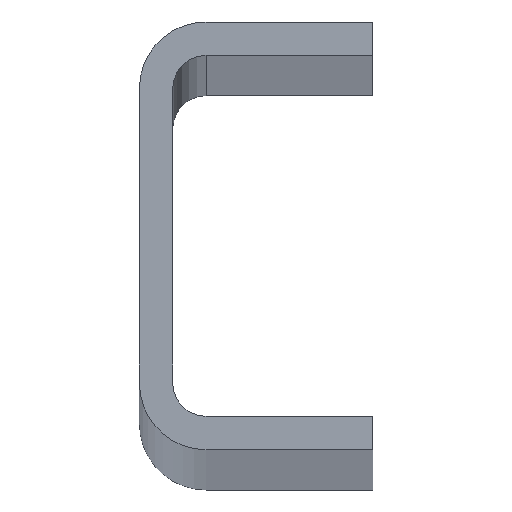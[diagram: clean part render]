
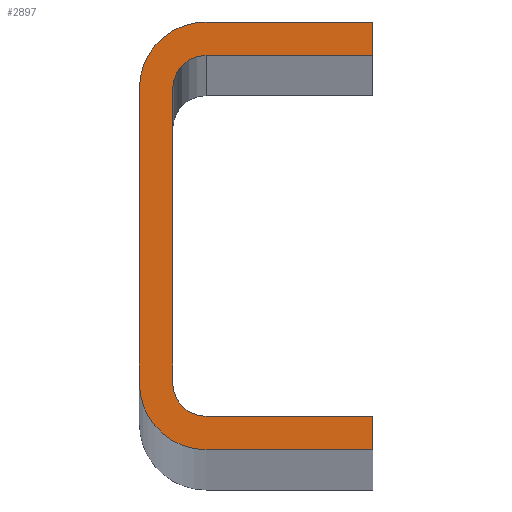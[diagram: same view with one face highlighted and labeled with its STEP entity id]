
A CAD part, top view. The second image highlights one B-rep face of the part: STEP entity #2897.
In plain terms, the highlighted planar face has unit normal (0, 0, 1).
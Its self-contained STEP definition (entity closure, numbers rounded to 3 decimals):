
#28 = VECTOR ( 'NONE', #2213, 1000. ) ;
#152 = VERTEX_POINT ( 'NONE', #876 ) ;
#164 = CARTESIAN_POINT ( 'NONE',  ( 6., 13.25, 0. ) ) ;
#173 = VECTOR ( 'NONE', #671, 1000. ) ;
#176 = CARTESIAN_POINT ( 'NONE',  ( 6., 16.25, 0. ) ) ;
#201 = EDGE_CURVE ( 'NONE', #3783, #1201, #4555, .T. ) ;
#260 = EDGE_CURVE ( 'NONE', #2105, #2435, #928, .T. ) ;
#384 = DIRECTION ( 'NONE',  ( 0., -1., 0. ) ) ;
#392 = ORIENTED_EDGE ( 'NONE', *, *, #3511, .T. ) ;
#475 = DIRECTION ( 'NONE',  ( 0., 0., 1. ) ) ;
#508 = CIRCLE ( 'NONE', #1164, 3. ) ;
#555 = VECTOR ( 'NONE', #2496, 1000. ) ;
#607 = EDGE_CURVE ( 'NONE', #4173, #2105, #938, .T. ) ;
#635 = LINE ( 'NONE', #3750, #2877 ) ;
#671 = DIRECTION ( 'NONE',  ( 0., 1., 0. ) ) ;
#745 = ORIENTED_EDGE ( 'NONE', *, *, #2243, .T. ) ;
#769 = VECTOR ( 'NONE', #1264, 1000. ) ;
#796 = EDGE_LOOP ( 'NONE', ( #4052, #745, #1595, #1997, #2623, #4964, #2340, #5023, #2715, #2128, #4064, #392 ) ) ;
#876 = CARTESIAN_POINT ( 'NONE',  ( 6., -19.25, 0. ) ) ;
#902 = DIRECTION ( 'NONE',  ( 1., 0., 0. ) ) ;
#910 = CARTESIAN_POINT ( 'NONE',  ( 6., 19.25, 0. ) ) ;
#928 = LINE ( 'NONE', #1695, #555 ) ;
#938 = LINE ( 'NONE', #176, #3988 ) ;
#950 = CARTESIAN_POINT ( 'NONE',  ( 21., 16.25, 0. ) ) ;
#1021 = VERTEX_POINT ( 'NONE', #1578 ) ;
#1047 = CARTESIAN_POINT ( 'NONE',  ( 21., -16.25, 0. ) ) ;
#1059 = CARTESIAN_POINT ( 'NONE',  ( 21., -19.25, 0. ) ) ;
#1110 = DIRECTION ( 'NONE',  ( -1., 0., 0. ) ) ;
#1111 = CARTESIAN_POINT ( 'NONE',  ( 21., -16.25, 0. ) ) ;
#1164 = AXIS2_PLACEMENT_3D ( 'NONE', #164, #4403, #4501 ) ;
#1201 = VERTEX_POINT ( 'NONE', #3225 ) ;
#1251 = CIRCLE ( 'NONE', #1922, 3. ) ;
#1264 = DIRECTION ( 'NONE',  ( -1., 0., 0. ) ) ;
#1304 = VERTEX_POINT ( 'NONE', #1047 ) ;
#1464 = DIRECTION ( 'NONE',  ( -1., 0., 0. ) ) ;
#1524 = VERTEX_POINT ( 'NONE', #4854 ) ;
#1578 = CARTESIAN_POINT ( 'NONE',  ( 0., -13.25, 0. ) ) ;
#1595 = ORIENTED_EDGE ( 'NONE', *, *, #3416, .T. ) ;
#1695 = CARTESIAN_POINT ( 'NONE',  ( 21., 16.25, 0. ) ) ;
#1922 = AXIS2_PLACEMENT_3D ( 'NONE', #3058, #2699, #1110 ) ;
#1997 = ORIENTED_EDGE ( 'NONE', *, *, #607, .T. ) ;
#2039 = LINE ( 'NONE', #2065, #769 ) ;
#2055 = CARTESIAN_POINT ( 'NONE',  ( 21., 19.25, 0. ) ) ;
#2065 = CARTESIAN_POINT ( 'NONE',  ( 21., 19.25, 0. ) ) ;
#2105 = VERTEX_POINT ( 'NONE', #950 ) ;
#2128 = ORIENTED_EDGE ( 'NONE', *, *, #2583, .T. ) ;
#2213 = DIRECTION ( 'NONE',  ( 0., 1., 0. ) ) ;
#2243 = EDGE_CURVE ( 'NONE', #4051, #1524, #4944, .T. ) ;
#2340 = ORIENTED_EDGE ( 'NONE', *, *, #201, .T. ) ;
#2414 = FACE_OUTER_BOUND ( 'NONE', #796, .T. ) ;
#2423 = CARTESIAN_POINT ( 'NONE',  ( 6., 13.25, 0. ) ) ;
#2435 = VERTEX_POINT ( 'NONE', #2055 ) ;
#2496 = DIRECTION ( 'NONE',  ( 0., 1., 0. ) ) ;
#2583 = EDGE_CURVE ( 'NONE', #152, #4404, #635, .T. ) ;
#2594 = CARTESIAN_POINT ( 'NONE',  ( 21., -19.25, 0. ) ) ;
#2623 = ORIENTED_EDGE ( 'NONE', *, *, #260, .T. ) ;
#2635 = AXIS2_PLACEMENT_3D ( 'NONE', #3487, #4669, #5050 ) ;
#2652 = LINE ( 'NONE', #1059, #28 ) ;
#2699 = DIRECTION ( 'NONE',  ( 0., 0., -1. ) ) ;
#2715 = ORIENTED_EDGE ( 'NONE', *, *, #3638, .T. ) ;
#2796 = AXIS2_PLACEMENT_3D ( 'NONE', #3640, #4099, #3291 ) ;
#2877 = VECTOR ( 'NONE', #3346, 1000. ) ;
#2878 = VERTEX_POINT ( 'NONE', #4630 ) ;
#2897 = ADVANCED_FACE ( 'NONE', ( #2414 ), #4825, .F. ) ;
#3003 = LINE ( 'NONE', #1111, #3535 ) ;
#3058 = CARTESIAN_POINT ( 'NONE',  ( 6., -13.25, 0. ) ) ;
#3085 = EDGE_CURVE ( 'NONE', #1201, #1021, #4261, .T. ) ;
#3225 = CARTESIAN_POINT ( 'NONE',  ( 0., 13.25, 0. ) ) ;
#3291 = DIRECTION ( 'NONE',  ( -1., 0., 0. ) ) ;
#3346 = DIRECTION ( 'NONE',  ( 1., 0., 0. ) ) ;
#3393 = CARTESIAN_POINT ( 'NONE',  ( 0., 0., 0. ) ) ;
#3416 = EDGE_CURVE ( 'NONE', #1524, #4173, #508, .T. ) ;
#3487 = CARTESIAN_POINT ( 'NONE',  ( 6., -13.25, 0. ) ) ;
#3511 = EDGE_CURVE ( 'NONE', #1304, #2878, #3003, .T. ) ;
#3519 = EDGE_CURVE ( 'NONE', #4404, #1304, #2652, .T. ) ;
#3535 = VECTOR ( 'NONE', #1464, 1000. ) ;
#3638 = EDGE_CURVE ( 'NONE', #1021, #152, #3937, .T. ) ;
#3640 = CARTESIAN_POINT ( 'NONE',  ( 6., -13.25, 0. ) ) ;
#3681 = VECTOR ( 'NONE', #384, 1000. ) ;
#3750 = CARTESIAN_POINT ( 'NONE',  ( 6., -19.25, 0. ) ) ;
#3783 = VERTEX_POINT ( 'NONE', #910 ) ;
#3899 = CARTESIAN_POINT ( 'NONE',  ( 6., 16.25, 0. ) ) ;
#3937 = CIRCLE ( 'NONE', #2635, 6. ) ;
#3988 = VECTOR ( 'NONE', #4905, 1000. ) ;
#4051 = VERTEX_POINT ( 'NONE', #4232 ) ;
#4052 = ORIENTED_EDGE ( 'NONE', *, *, #4650, .T. ) ;
#4064 = ORIENTED_EDGE ( 'NONE', *, *, #3519, .T. ) ;
#4099 = DIRECTION ( 'NONE',  ( 0., 0., -1. ) ) ;
#4173 = VERTEX_POINT ( 'NONE', #3899 ) ;
#4232 = CARTESIAN_POINT ( 'NONE',  ( 3., -13.25, 0. ) ) ;
#4261 = LINE ( 'NONE', #3393, #3681 ) ;
#4290 = EDGE_CURVE ( 'NONE', #2435, #3783, #2039, .T. ) ;
#4312 = AXIS2_PLACEMENT_3D ( 'NONE', #2423, #475, #902 ) ;
#4404 = VERTEX_POINT ( 'NONE', #2594 ) ;
#4403 = DIRECTION ( 'NONE',  ( 0., 0., -1. ) ) ;
#4501 = DIRECTION ( 'NONE',  ( -1., 0., 0. ) ) ;
#4555 = CIRCLE ( 'NONE', #4312, 6. ) ;
#4612 = CARTESIAN_POINT ( 'NONE',  ( 3., -13.25, 0. ) ) ;
#4630 = CARTESIAN_POINT ( 'NONE',  ( 6., -16.25, 0. ) ) ;
#4650 = EDGE_CURVE ( 'NONE', #2878, #4051, #1251, .T. ) ;
#4669 = DIRECTION ( 'NONE',  ( 0., 0., 1. ) ) ;
#4825 = PLANE ( 'NONE',  #2796 ) ;
#4854 = CARTESIAN_POINT ( 'NONE',  ( 3., 13.25, 0. ) ) ;
#4905 = DIRECTION ( 'NONE',  ( 1., 0., 0. ) ) ;
#4944 = LINE ( 'NONE', #4612, #173 ) ;
#4964 = ORIENTED_EDGE ( 'NONE', *, *, #4290, .T. ) ;
#5023 = ORIENTED_EDGE ( 'NONE', *, *, #3085, .T. ) ;
#5050 = DIRECTION ( 'NONE',  ( 1., 0., 0. ) ) ;
